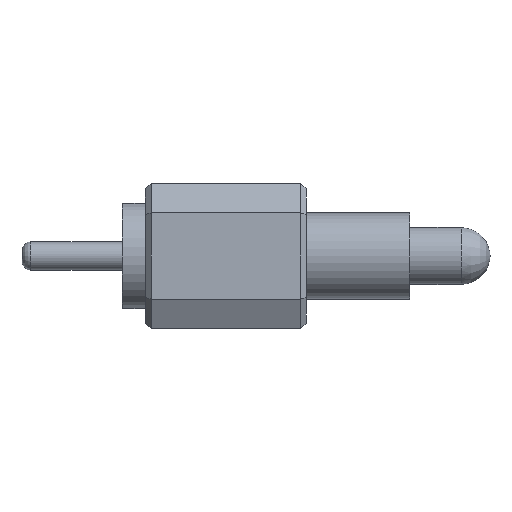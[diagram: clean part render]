
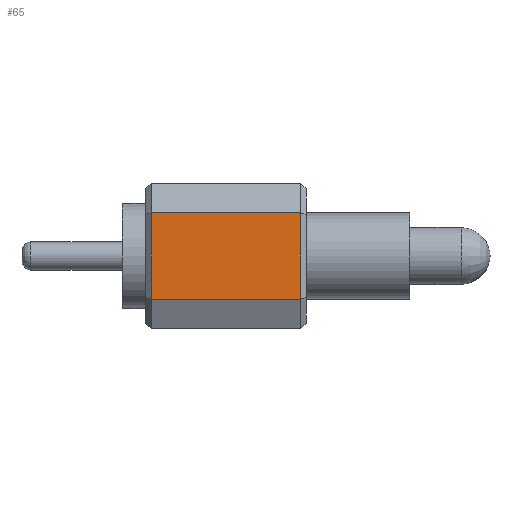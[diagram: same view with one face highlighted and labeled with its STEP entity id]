
A CAD part, front view. The second image highlights one B-rep face of the part: STEP entity #65.
In plain terms, the highlighted planar face has unit normal (0, -1, 0).
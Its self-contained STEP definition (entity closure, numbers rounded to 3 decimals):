
#65 = ADVANCED_FACE('',(#66),#80,.F.);
#66 = FACE_BOUND('',#67,.F.);
#67 = EDGE_LOOP('',(#68,#103,#131,#159));
#68 = ORIENTED_EDGE('',*,*,#69,.T.);
#69 = EDGE_CURVE('',#70,#72,#74,.T.);
#70 = VERTEX_POINT('',#71);
#71 = CARTESIAN_POINT('',(0.5,-1.27,0.75));
#72 = VERTEX_POINT('',#73);
#73 = CARTESIAN_POINT('',(3.1,-1.27,0.75));
#74 = SURFACE_CURVE('',#75,(#79,#91),.PCURVE_S1.);
#75 = LINE('',#76,#77);
#76 = CARTESIAN_POINT('',(0.4,-1.27,0.75));
#77 = VECTOR('',#78,1.);
#78 = DIRECTION('',(1.,0.,0.));
#79 = PCURVE('',#80,#85);
#80 = PLANE('',#81);
#81 = AXIS2_PLACEMENT_3D('',#82,#83,#84);
#82 = CARTESIAN_POINT('',(0.4,-1.27,0.75));
#83 = DIRECTION('',(0.,1.,0.));
#84 = DIRECTION('',(0.,0.,-1.));
#85 = DEFINITIONAL_REPRESENTATION('',(#86),#90);
#86 = LINE('',#87,#88);
#87 = CARTESIAN_POINT('',(0.,0.));
#88 = VECTOR('',#89,1.);
#89 = DIRECTION('',(0.,-1.));
#90 = ( GEOMETRIC_REPRESENTATION_CONTEXT(2) 
PARAMETRIC_REPRESENTATION_CONTEXT() REPRESENTATION_CONTEXT('2D SPACE',''
  ) );
#91 = PCURVE('',#92,#97);
#92 = PLANE('',#93);
#93 = AXIS2_PLACEMENT_3D('',#94,#95,#96);
#94 = CARTESIAN_POINT('',(0.4,-1.,1.27));
#95 = DIRECTION('',(0.,0.887,-0.461));
#96 = DIRECTION('',(0.,-0.461,-0.887));
#97 = DEFINITIONAL_REPRESENTATION('',(#98),#102);
#98 = LINE('',#99,#100);
#99 = CARTESIAN_POINT('',(0.586,0.));
#100 = VECTOR('',#101,1.);
#101 = DIRECTION('',(0.,-1.));
#102 = ( GEOMETRIC_REPRESENTATION_CONTEXT(2) 
PARAMETRIC_REPRESENTATION_CONTEXT() REPRESENTATION_CONTEXT('2D SPACE',''
  ) );
#103 = ORIENTED_EDGE('',*,*,#104,.T.);
#104 = EDGE_CURVE('',#72,#105,#107,.T.);
#105 = VERTEX_POINT('',#106);
#106 = CARTESIAN_POINT('',(3.1,-1.27,-0.75));
#107 = SURFACE_CURVE('',#108,(#112,#119),.PCURVE_S1.);
#108 = LINE('',#109,#110);
#109 = CARTESIAN_POINT('',(3.1,-1.27,0.75));
#110 = VECTOR('',#111,1.);
#111 = DIRECTION('',(0.,0.,-1.));
#112 = PCURVE('',#80,#113);
#113 = DEFINITIONAL_REPRESENTATION('',(#114),#118);
#114 = LINE('',#115,#116);
#115 = CARTESIAN_POINT('',(0.,-2.7));
#116 = VECTOR('',#117,1.);
#117 = DIRECTION('',(1.,0.));
#118 = ( GEOMETRIC_REPRESENTATION_CONTEXT(2) 
PARAMETRIC_REPRESENTATION_CONTEXT() REPRESENTATION_CONTEXT('2D SPACE',''
  ) );
#119 = PCURVE('',#120,#125);
#120 = PLANE('',#121);
#121 = AXIS2_PLACEMENT_3D('',#122,#123,#124);
#122 = CARTESIAN_POINT('',(3.15,-1.22,0.75));
#123 = DIRECTION('',(-0.707,0.707,0.));
#124 = DIRECTION('',(0.,0.,1.));
#125 = DEFINITIONAL_REPRESENTATION('',(#126),#130);
#126 = LINE('',#127,#128);
#127 = CARTESIAN_POINT('',(0.,-0.071));
#128 = VECTOR('',#129,1.);
#129 = DIRECTION('',(-1.,0.));
#130 = ( GEOMETRIC_REPRESENTATION_CONTEXT(2) 
PARAMETRIC_REPRESENTATION_CONTEXT() REPRESENTATION_CONTEXT('2D SPACE',''
  ) );
#131 = ORIENTED_EDGE('',*,*,#132,.F.);
#132 = EDGE_CURVE('',#133,#105,#135,.T.);
#133 = VERTEX_POINT('',#134);
#134 = CARTESIAN_POINT('',(0.5,-1.27,-0.75));
#135 = SURFACE_CURVE('',#136,(#140,#147),.PCURVE_S1.);
#136 = LINE('',#137,#138);
#137 = CARTESIAN_POINT('',(0.4,-1.27,-0.75));
#138 = VECTOR('',#139,1.);
#139 = DIRECTION('',(1.,0.,0.));
#140 = PCURVE('',#80,#141);
#141 = DEFINITIONAL_REPRESENTATION('',(#142),#146);
#142 = LINE('',#143,#144);
#143 = CARTESIAN_POINT('',(1.5,0.));
#144 = VECTOR('',#145,1.);
#145 = DIRECTION('',(0.,-1.));
#146 = ( GEOMETRIC_REPRESENTATION_CONTEXT(2) 
PARAMETRIC_REPRESENTATION_CONTEXT() REPRESENTATION_CONTEXT('2D SPACE',''
  ) );
#147 = PCURVE('',#148,#153);
#148 = PLANE('',#149);
#149 = AXIS2_PLACEMENT_3D('',#150,#151,#152);
#150 = CARTESIAN_POINT('',(0.4,-1.27,-0.75));
#151 = DIRECTION('',(0.,0.887,0.461));
#152 = DIRECTION('',(0.,0.461,-0.887));
#153 = DEFINITIONAL_REPRESENTATION('',(#154),#158);
#154 = LINE('',#155,#156);
#155 = CARTESIAN_POINT('',(0.,0.));
#156 = VECTOR('',#157,1.);
#157 = DIRECTION('',(0.,-1.));
#158 = ( GEOMETRIC_REPRESENTATION_CONTEXT(2) 
PARAMETRIC_REPRESENTATION_CONTEXT() REPRESENTATION_CONTEXT('2D SPACE',''
  ) );
#159 = ORIENTED_EDGE('',*,*,#160,.F.);
#160 = EDGE_CURVE('',#70,#133,#161,.T.);
#161 = SURFACE_CURVE('',#162,(#166,#173),.PCURVE_S1.);
#162 = LINE('',#163,#164);
#163 = CARTESIAN_POINT('',(0.5,-1.27,0.75));
#164 = VECTOR('',#165,1.);
#165 = DIRECTION('',(0.,0.,-1.));
#166 = PCURVE('',#80,#167);
#167 = DEFINITIONAL_REPRESENTATION('',(#168),#172);
#168 = LINE('',#169,#170);
#169 = CARTESIAN_POINT('',(0.,-0.1));
#170 = VECTOR('',#171,1.);
#171 = DIRECTION('',(1.,0.));
#172 = ( GEOMETRIC_REPRESENTATION_CONTEXT(2) 
PARAMETRIC_REPRESENTATION_CONTEXT() REPRESENTATION_CONTEXT('2D SPACE',''
  ) );
#173 = PCURVE('',#174,#179);
#174 = PLANE('',#175);
#175 = AXIS2_PLACEMENT_3D('',#176,#177,#178);
#176 = CARTESIAN_POINT('',(0.45,-1.22,0.75));
#177 = DIRECTION('',(-0.707,-0.707,-0.));
#178 = DIRECTION('',(0.,0.,1.));
#179 = DEFINITIONAL_REPRESENTATION('',(#180),#184);
#180 = LINE('',#181,#182);
#181 = CARTESIAN_POINT('',(0.,-0.071));
#182 = VECTOR('',#183,1.);
#183 = DIRECTION('',(-1.,0.));
#184 = ( GEOMETRIC_REPRESENTATION_CONTEXT(2) 
PARAMETRIC_REPRESENTATION_CONTEXT() REPRESENTATION_CONTEXT('2D SPACE',''
  ) );
